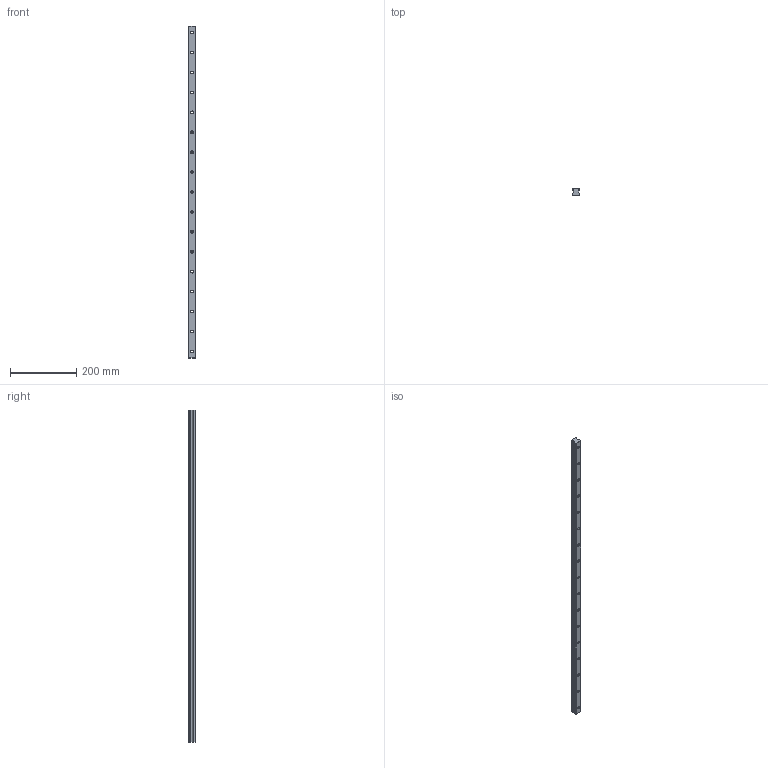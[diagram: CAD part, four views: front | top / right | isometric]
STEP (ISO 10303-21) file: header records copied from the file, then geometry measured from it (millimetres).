
FILE_DESCRIPTION(/* description */ (''),/* implementation_level */ '2;1');
FILE_NAME(/* name */ 'C:\Users\daviddillkoetter\ownCloud\Kamp und Kötter\Artikel\KPN_Profilführungen\Step\KPNR-25.stp',/* time_stamp */ '2021-01-27T11:19:14+01:00',/* author */ ('daviddillkoetter'),/* organization */ (''),/* preprocessor_version */ 'ST-DEVELOPER v18.1',/* originating_system */ 'Autodesk Inventor 2021',/* authorisation */ '');
FILE_SCHEMA (('AUTOMOTIVE_DESIGN { 1 0 10303 214 3 1 1 }'));
Length unit declared in the file: millimetre
Products named in the file (1): KPNR
Bounding box: 23 x 22 x 1000 mm (x, y, z)
Volume: 415978.6 mm3; surface area: 101791.4 mm2
Topology: 1 solids, 1 shells, 154 faces, 378 edges, 243 vertices
Faces by surface type: plane 61, cylinder 51, cone 42
Full cylindrical faces by diameter (mm): 7 x17, 11 x17
Entity records: 4766 total; most frequent: CARTESIAN_POINT 914, DIRECTION 831, ORIENTED_EDGE 756, EDGE_CURVE 378, AXIS2_PLACEMENT_3D 328, VERTEX_POINT 243, EDGE_LOOP 205, LINE 175
